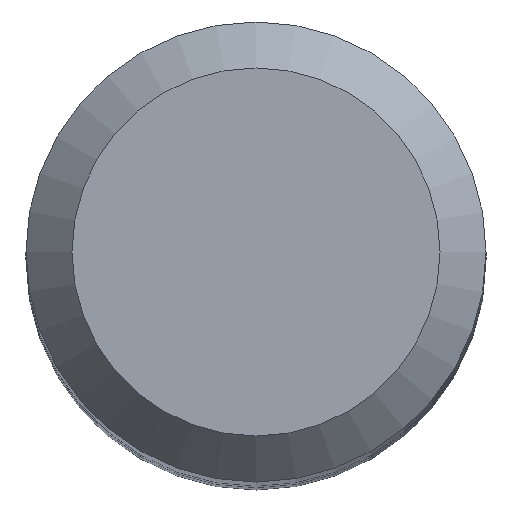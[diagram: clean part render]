
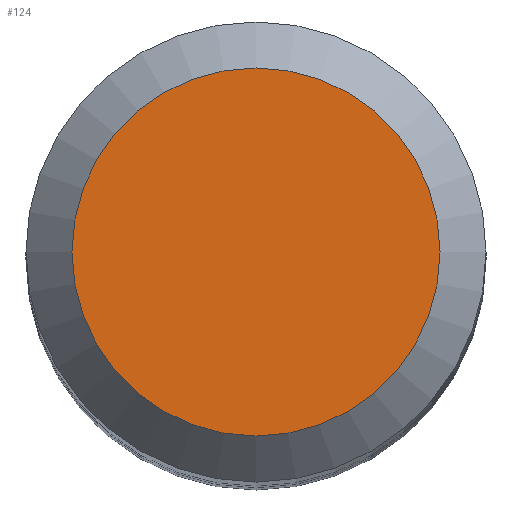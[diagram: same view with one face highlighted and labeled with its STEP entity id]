
A CAD part, top view. The second image highlights one B-rep face of the part: STEP entity #124.
In plain terms, the highlighted planar face has unit normal (0, 0, 1).
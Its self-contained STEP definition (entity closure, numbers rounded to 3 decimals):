
#108=CARTESIAN_POINT('',(4.0,0.0,100.0));
#109=DIRECTION('',(0.0,0.0,1.0));
#110=DIRECTION('',(1.0,0.0,0.0));
#111=AXIS2_PLACEMENT_3D('',#108,#109,#110);
#112=PLANE('',#111);
#113=CARTESIAN_POINT('',(-4.0,0.0,100.0));
#114=VERTEX_POINT('',#113);
#115=CARTESIAN_POINT('',(0.0,0.0,100.0));
#116=DIRECTION('',(0.0,0.0,-1.0));
#117=DIRECTION('',(-1.0,0.0,0.0));
#118=AXIS2_PLACEMENT_3D('',#115,#116,#117);
#119=CIRCLE('',#118,4.0);
#120=EDGE_CURVE('',#114,#114,#119,.T.);
#121=ORIENTED_EDGE('',*,*,#120,.F.);
#122=EDGE_LOOP('',(#121));
#123=FACE_OUTER_BOUND('',#122,.T.);
#124=ADVANCED_FACE('',(#123),#112,.T.);
